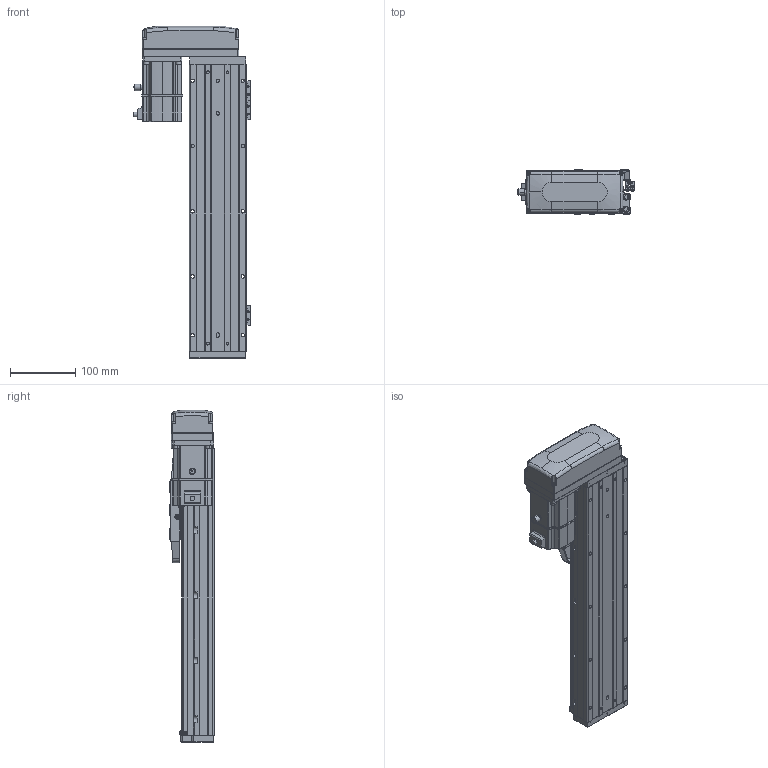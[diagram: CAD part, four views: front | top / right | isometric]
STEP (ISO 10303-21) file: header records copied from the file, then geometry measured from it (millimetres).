
FILE_DESCRIPTION (( 'STEP AP203' ), '1' );
FILE_NAME ('CTHA86-250-BR-M20-C4L.step', '2022-04-26T00:59:19', ( '微软用户' ), ( '微软中国' ), 'SwSTEP 2.0', 'SolidWorks 2020', '' );
FILE_SCHEMA (( 'CONFIG_CONTROL_DESIGN' ));
Length unit declared in the file: millimetre
Products named in the file (21): CTHA86-033; CTHA60-021; _X2_4E0983F1_X0_200W_1; CTHA86-250-BR-M20-C4L; KTHA86-001_440; GBT77-2000 M3×3; CTHA86-002; KTHA86-004; GBT 70.1-M3×20; CTHA86-031; KTHA86-005; GBT70.1 M5℅16; CTHA86-030; GB¨uT 70.2-M3¡Á5_M3¡Á6; GBT 70.1-M3×16; GBT 70.3-M3℅6; EE_SX911P_R; GBT 70.1-M3℅6; CTHA86-015-1_CTHA86-015-2; CTHA60-017; CTHA60-016
Assembly tree (66 placements, depth 2):
  CTHA86-250-BR-M20-C4L
    KTHA86-001_440
    KTHA86-004
    KTHA86-005
    GB¨uT 70.2-M3¡Á5_M3¡Á6  x10
    EE_SX911P_R  x3
    CTHA60-017  x3
    CTHA60-021  x2
    GBT77-2000 M3×3  x6
    GBT 70.1-M3×20
    GBT70.1 M5℅16  x14
    GBT 70.1-M3×16  x5
    GBT 70.1-M3℅6  x6
    CTHA60-016  x2
    _X2_4E0983F1_X0_200W_1
    CTHA86-002
    CTHA86-031
    CTHA86-030  x2
    GBT 70.3-M3℅6  x4
    CTHA86-015-1_CTHA86-015-2
    CTHA86-033
Bounding box: 178.52 x 68 x 509 mm (x, y, z)
Volume: 2356924.8 mm3; surface area: 423666.9 mm2
Topology: 68 solids, 68 shells, 2706 faces, 6428 edges, 3952 vertices
Faces by surface type: plane 1415, cylinder 699, cone 361, torus 132, bspline 75, sphere 24
Entity records: 46497 total; most frequent: CARTESIAN_POINT 9059, DIRECTION 7189, ORIENTED_EDGE 6956, EDGE_CURVE 3478, AXIS2_PLACEMENT_3D 2466, VECTOR 2257, LINE 2257, VERTEX_POINT 2184
